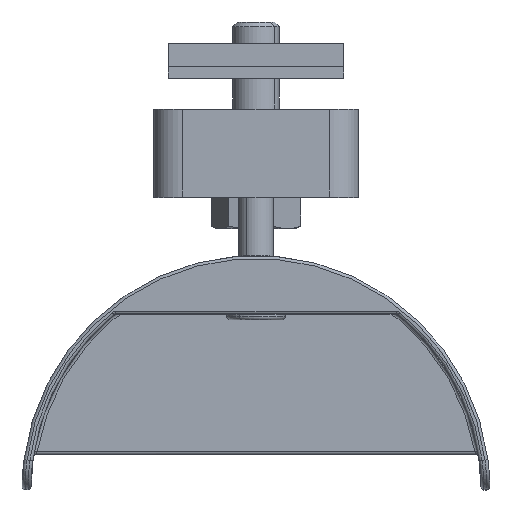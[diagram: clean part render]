
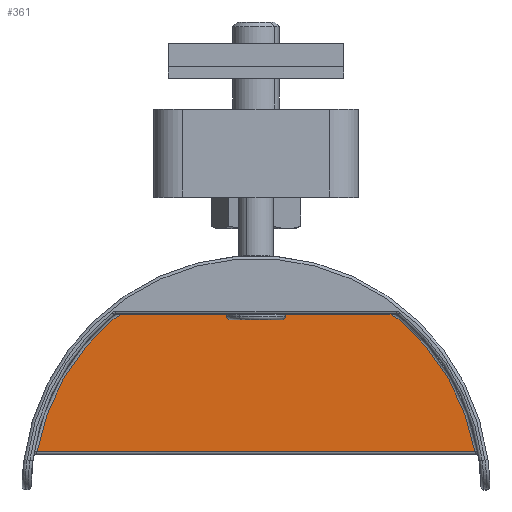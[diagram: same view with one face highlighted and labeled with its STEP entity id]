
A CAD part, top view. The second image highlights one B-rep face of the part: STEP entity #361.
In plain terms, the highlighted planar face has unit normal (0, 0, 1).
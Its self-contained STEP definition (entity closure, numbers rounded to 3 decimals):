
#93 = CARTESIAN_POINT ( 'NONE',  ( 0., 0., 8. ) ) ;
#107 = DIRECTION ( 'NONE',  ( 1., 0., 0. ) ) ;
#112 = CARTESIAN_POINT ( 'NONE',  ( 38.03, 6.5, 8. ) ) ;
#113 = DIRECTION ( 'NONE',  ( 1., 0., 0. ) ) ;
#114 = DIRECTION ( 'NONE',  ( 0., 0., 1. ) ) ;
#361 = ADVANCED_FACE ( 'NONE', ( #5518 ), #1123, .T. ) ;
#1121 = CARTESIAN_POINT ( 'NONE',  ( 0., 0., 8. ) ) ;
#1123 = PLANE ( 'NONE',  #8761 ) ;
#1125 = DIRECTION ( 'NONE',  ( 0., 0., 1. ) ) ;
#1126 = DIRECTION ( 'NONE',  ( 1., 0., 0. ) ) ;
#3615 = CARTESIAN_POINT ( 'NONE',  ( -37.44, 6.5, 8. ) ) ;
#3623 = CARTESIAN_POINT ( 'NONE',  ( 37.44, 6.5, 8. ) ) ;
#5339 = LINE ( 'NONE', #112, #5909 ) ;
#5518 = FACE_OUTER_BOUND ( 'NONE', #6914, .T. ) ;
#5750 = CIRCLE ( 'NONE', #9182, 38. ) ;
#5909 = VECTOR ( 'NONE', #113, 1000. ) ;
#6914 = EDGE_LOOP ( 'NONE', ( #10041, #7116 ) ) ;
#7116 = ORIENTED_EDGE ( 'NONE', *, *, #9069, .T. ) ;
#8761 = AXIS2_PLACEMENT_3D ( 'NONE', #1121, #1125, #1126 ) ;
#9069 = EDGE_CURVE ( 'NONE', #10255, #10252, #5339, .T. ) ;
#9070 = EDGE_CURVE ( 'NONE', #10252, #10255, #5750, .T. ) ;
#9182 = AXIS2_PLACEMENT_3D ( 'NONE', #93, #114, #107 ) ;
#10041 = ORIENTED_EDGE ( 'NONE', *, *, #9070, .T. ) ;
#10252 = VERTEX_POINT ( 'NONE', #3623 ) ;
#10255 = VERTEX_POINT ( 'NONE', #3615 ) ;
